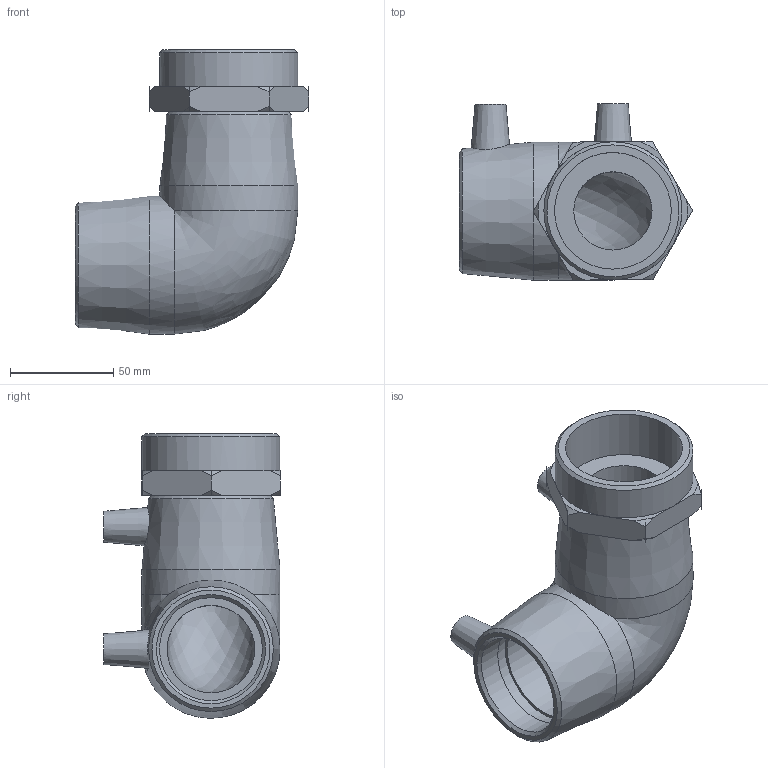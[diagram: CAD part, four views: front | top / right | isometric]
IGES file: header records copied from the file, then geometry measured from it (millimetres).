
Global section: file name: 493504050020.ipt; native system: Autodesk Inventor 2015; preprocessor: unknown; author: KIM; date: 20200202.123503; units: millimetre
Bounding box: 113.18 x 85.59 x 138 mm (x, y, z)
Volume: 303690.1 mm3; surface area: 70897.5 mm2
Topology: 2 solids, 2 shells, 76 faces, 215 edges, 150 vertices
Faces by surface type: plane 27, revolution 22, cone 19, cylinder 7, bspline 1
Full cylindrical faces by diameter (mm): 4 x2, 50 x2, 67 x3
